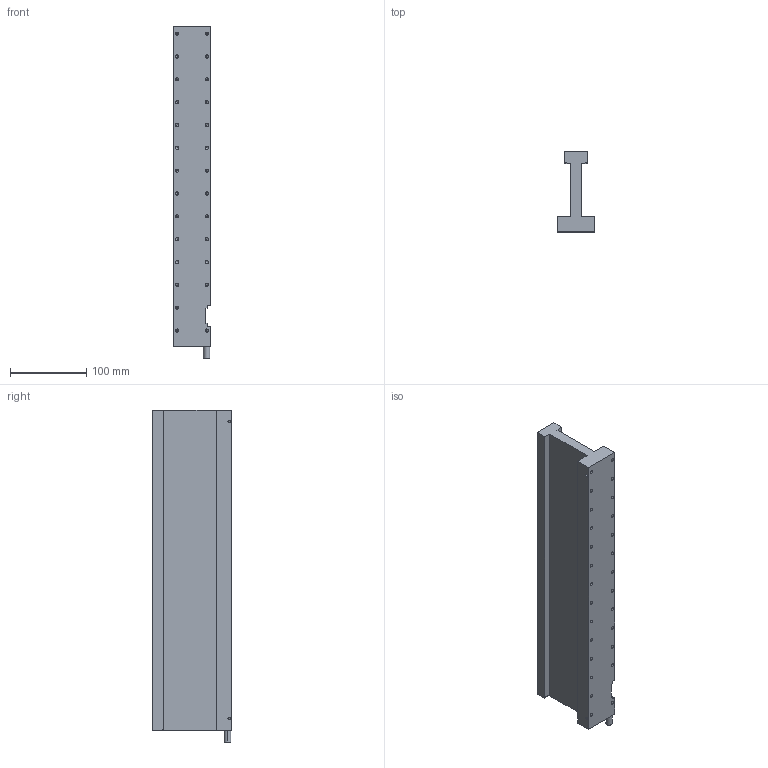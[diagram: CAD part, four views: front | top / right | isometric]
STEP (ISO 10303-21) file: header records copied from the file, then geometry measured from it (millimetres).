
FILE_DESCRIPTION (( 'STEP AP214' ), '1' );
FILE_NAME ('JKA57.STEP', '2025-09-05T08:50:37', ( '' ), ( '' ), 'SwSTEP 2.0', 'SolidWorks 2016', '' );
FILE_SCHEMA (( 'AUTOMOTIVE_DESIGN' ));
Length unit declared in the file: millimetre
Products named in the file (1): JKA57
Bounding box: 49 x 104.8 x 436 mm (x, y, z)
Volume: 992745.8 mm3; surface area: 154913.5 mm2
Topology: 1 solids, 1 shells, 171 faces, 439 edges, 237 vertices
Faces by surface type: cylinder 76, cone 66, plane 29
Entity records: 5469 total; most frequent: DIRECTION 859, CARTESIAN_POINT 828, ORIENTED_EDGE 746, EDGE_CURVE 373, AXIS2_PLACEMENT_3D 320, VERTEX_POINT 237, VECTOR 219, LINE 219
